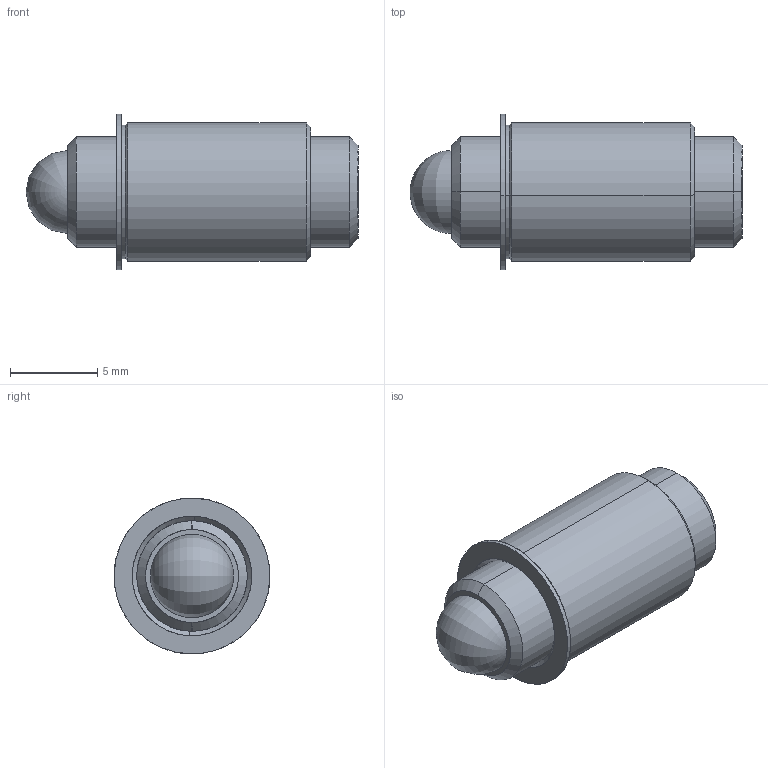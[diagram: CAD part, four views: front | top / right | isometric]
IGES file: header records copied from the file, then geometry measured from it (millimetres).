
Start section: SolidWorks IGES file using analytic representation for surfaces
Global section: file name: C:\Users\workpc\Desktop\KMA Solidworks\TSB250-80-750_437-AA.IGS; native system: SolidWorks 2013; preprocessor: SolidWorks 2013; author: workpc; date: 130314.083911; units: inch
Bounding box: 19.05 x 8.93 x 8.93 mm (x, y, z)
Surface area: 794.2 mm2 (no closed solid volume)
Topology: 0 solids, 0 shells, 33 faces, 406 edges, 402 vertices
Faces by surface type: revolution 22, bspline 11
